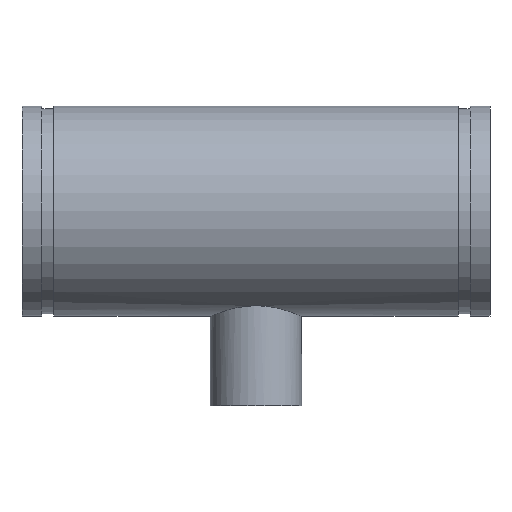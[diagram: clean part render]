
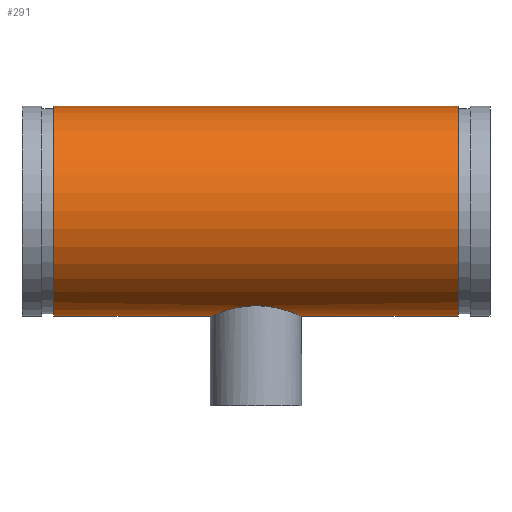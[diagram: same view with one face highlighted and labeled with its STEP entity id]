
A CAD part, top view. The second image highlights one B-rep face of the part: STEP entity #291.
In plain terms, the highlighted cylindrical face has radius 84.138 mm (diameter 168.275 mm), a full revolution.
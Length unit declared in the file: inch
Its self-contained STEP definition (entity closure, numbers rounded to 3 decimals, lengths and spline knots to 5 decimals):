
#45=B_SPLINE_CURVE_WITH_KNOTS('',3,(#511,#512,#513,#514,#515,#516,#517,
#518,#519,#520,#521,#522,#523,#524,#525,#526,#527,#528,#529,#530,#531,#532,
#533,#534,#535,#536,#537,#538,#539,#540,#541,#542,#543,#544,#545,#546,#547,
#548,#549,#550,#551,#552,#553,#554,#555,#556,#557,#558,#559,#560),
 .UNSPECIFIED.,.F.,.F.,(4,2,2,2,2,2,2,2,2,2,2,2,2,2,2,2,2,2,2,2,2,2,2,2,
4),(0.,0.69841,1.39681,2.09522,2.79363,
3.49103,4.18843,4.88582,5.58322,6.28062,
6.97802,7.67542,8.37282,9.07122,9.76963,
10.46804,11.16645,11.86485,12.56326,13.26167,
13.96007,14.65747,15.35487,16.05227,16.74967),
 .UNSPECIFIED.);
#46=B_SPLINE_CURVE_WITH_KNOTS('',3,(#561,#562,#563,#564,#565,#566,#567,
#568,#569,#570,#571,#572,#573,#574,#575,#576,#577,#578),.UNSPECIFIED.,.F.,
 .F.,(4,2,2,2,2,2,2,2,4),(16.74967,17.44707,18.14447,
18.84186,19.53926,20.23767,20.93608,21.63448,
22.33289),.UNSPECIFIED.);
#51=LINE('',#508,#59);
#59=VECTOR('',#410,3.3125);
#67=CYLINDRICAL_SURFACE('',#338,3.3125);
#77=FACE_BOUND('',#108,.T.);
#88=FACE_OUTER_BOUND('',#107,.T.);
#107=EDGE_LOOP('',(#221,#222,#223,#224));
#108=EDGE_LOOP('',(#225,#226));
#121=CIRCLE('',#321,3.3125);
#132=CIRCLE('',#337,3.3125);
#141=VERTEX_POINT('',#476);
#152=VERTEX_POINT('',#505);
#153=VERTEX_POINT('',#509);
#154=VERTEX_POINT('',#510);
#165=EDGE_CURVE('',#141,#141,#121,.T.);
#178=EDGE_CURVE('',#152,#152,#132,.T.);
#179=EDGE_CURVE('',#152,#141,#51,.T.);
#180=EDGE_CURVE('',#153,#154,#45,.T.);
#181=EDGE_CURVE('',#154,#153,#46,.T.);
#221=ORIENTED_EDGE('',*,*,#178,.T.);
#222=ORIENTED_EDGE('',*,*,#179,.T.);
#223=ORIENTED_EDGE('',*,*,#165,.T.);
#224=ORIENTED_EDGE('',*,*,#179,.F.);
#225=ORIENTED_EDGE('',*,*,#180,.F.);
#226=ORIENTED_EDGE('',*,*,#181,.F.);
#291=ADVANCED_FACE('',(#88,#77),#67,.T.);
#321=AXIS2_PLACEMENT_3D('',#477,#372,#373);
#337=AXIS2_PLACEMENT_3D('',#506,#406,#407);
#338=AXIS2_PLACEMENT_3D('',#507,#408,#409);
#372=DIRECTION('center_axis',(-1.,0.,0.));
#373=DIRECTION('ref_axis',(0.,-1.,0.));
#406=DIRECTION('center_axis',(1.,0.,0.));
#407=DIRECTION('ref_axis',(0.,-1.,0.));
#408=DIRECTION('center_axis',(-1.,0.,0.));
#409=DIRECTION('ref_axis',(0.,-1.,0.));
#410=DIRECTION('',(1.,0.,0.));
#476=CARTESIAN_POINT('',(6.38,3.3125,0.));
#477=CARTESIAN_POINT('Origin',(6.38,0.,0.));
#505=CARTESIAN_POINT('',(-6.38,3.3125,0.));
#506=CARTESIAN_POINT('Origin',(-6.38,0.,0.));
#507=CARTESIAN_POINT('Origin',(7.38,0.,0.));
#508=CARTESIAN_POINT('',(7.38,3.3125,0.));
#509=CARTESIAN_POINT('',(0.,-2.98433,-1.4375));
#510=CARTESIAN_POINT('',(-1.4375,-3.3125,0.));
#511=CARTESIAN_POINT('Ctrl Pts',(0.,-2.98433,
-1.4375));
#512=CARTESIAN_POINT('Ctrl Pts',(0.09165,-2.98433,-1.4375));
#513=CARTESIAN_POINT('Ctrl Pts',(0.18597,-2.98868,-1.42859));
#514=CARTESIAN_POINT('Ctrl Pts',(0.37272,-3.00608,-1.3916));
#515=CARTESIAN_POINT('Ctrl Pts',(0.46516,-3.01912,-1.36352));
#516=CARTESIAN_POINT('Ctrl Pts',(0.64179,-3.05133,-1.28983));
#517=CARTESIAN_POINT('Ctrl Pts',(0.72614,-3.07049,-1.24416));
#518=CARTESIAN_POINT('Ctrl Pts',(0.88189,-3.111,-1.13908));
#519=CARTESIAN_POINT('Ctrl Pts',(0.95328,-3.13232,-1.07965));
#520=CARTESIAN_POINT('Ctrl Pts',(1.07956,-3.17303,-0.95337));
#521=CARTESIAN_POINT('Ctrl Pts',(1.13898,-3.19392,-0.88202));
#522=CARTESIAN_POINT('Ctrl Pts',(1.2441,-3.2329,-0.72626));
#523=CARTESIAN_POINT('Ctrl Pts',(1.28981,-3.25096,-0.64184));
#524=CARTESIAN_POINT('Ctrl Pts',(1.36356,-3.28091,-0.46507));
#525=CARTESIAN_POINT('Ctrl Pts',(1.39164,-3.29282,-0.37257));
#526=CARTESIAN_POINT('Ctrl Pts',(1.42862,-3.30861,-0.18579));
#527=CARTESIAN_POINT('Ctrl Pts',(1.4375,-3.3125,-0.09152));
#528=CARTESIAN_POINT('Ctrl Pts',(1.4375,-3.3125,0.09152));
#529=CARTESIAN_POINT('Ctrl Pts',(1.42862,-3.30861,0.18579));
#530=CARTESIAN_POINT('Ctrl Pts',(1.39164,-3.29282,0.37257));
#531=CARTESIAN_POINT('Ctrl Pts',(1.36356,-3.28091,0.46507));
#532=CARTESIAN_POINT('Ctrl Pts',(1.28981,-3.25096,0.64184));
#533=CARTESIAN_POINT('Ctrl Pts',(1.2441,-3.2329,0.72626));
#534=CARTESIAN_POINT('Ctrl Pts',(1.13898,-3.19392,0.88202));
#535=CARTESIAN_POINT('Ctrl Pts',(1.07956,-3.17303,0.95337));
#536=CARTESIAN_POINT('Ctrl Pts',(0.95328,-3.13232,1.07965));
#537=CARTESIAN_POINT('Ctrl Pts',(0.88189,-3.111,1.13908));
#538=CARTESIAN_POINT('Ctrl Pts',(0.72614,-3.07049,1.24416));
#539=CARTESIAN_POINT('Ctrl Pts',(0.64179,-3.05133,1.28983));
#540=CARTESIAN_POINT('Ctrl Pts',(0.46516,-3.01912,1.36352));
#541=CARTESIAN_POINT('Ctrl Pts',(0.37272,-3.00608,1.3916));
#542=CARTESIAN_POINT('Ctrl Pts',(0.18597,-2.98868,1.42859));
#543=CARTESIAN_POINT('Ctrl Pts',(0.09165,-2.98433,1.4375));
#544=CARTESIAN_POINT('Ctrl Pts',(-0.09165,-2.98433,
1.4375));
#545=CARTESIAN_POINT('Ctrl Pts',(-0.18597,-2.98868,1.42859));
#546=CARTESIAN_POINT('Ctrl Pts',(-0.37272,-3.00608,1.3916));
#547=CARTESIAN_POINT('Ctrl Pts',(-0.46516,-3.01912,1.36352));
#548=CARTESIAN_POINT('Ctrl Pts',(-0.64179,-3.05133,1.28983));
#549=CARTESIAN_POINT('Ctrl Pts',(-0.72614,-3.07049,1.24416));
#550=CARTESIAN_POINT('Ctrl Pts',(-0.88189,-3.111,1.13908));
#551=CARTESIAN_POINT('Ctrl Pts',(-0.95328,-3.13232,1.07965));
#552=CARTESIAN_POINT('Ctrl Pts',(-1.07956,-3.17303,0.95337));
#553=CARTESIAN_POINT('Ctrl Pts',(-1.13898,-3.19392,0.88202));
#554=CARTESIAN_POINT('Ctrl Pts',(-1.2441,-3.2329,0.72626));
#555=CARTESIAN_POINT('Ctrl Pts',(-1.28981,-3.25096,0.64184));
#556=CARTESIAN_POINT('Ctrl Pts',(-1.36356,-3.28091,0.46507));
#557=CARTESIAN_POINT('Ctrl Pts',(-1.39164,-3.29282,0.37257));
#558=CARTESIAN_POINT('Ctrl Pts',(-1.42862,-3.30861,0.18579));
#559=CARTESIAN_POINT('Ctrl Pts',(-1.4375,-3.3125,0.09152));
#560=CARTESIAN_POINT('Ctrl Pts',(-1.4375,-3.3125,0.));
#561=CARTESIAN_POINT('Ctrl Pts',(-1.4375,-3.3125,0.));
#562=CARTESIAN_POINT('Ctrl Pts',(-1.4375,-3.3125,-0.09152));
#563=CARTESIAN_POINT('Ctrl Pts',(-1.42862,-3.30861,-0.18579));
#564=CARTESIAN_POINT('Ctrl Pts',(-1.39164,-3.29282,-0.37257));
#565=CARTESIAN_POINT('Ctrl Pts',(-1.36356,-3.28091,-0.46507));
#566=CARTESIAN_POINT('Ctrl Pts',(-1.28981,-3.25096,-0.64184));
#567=CARTESIAN_POINT('Ctrl Pts',(-1.2441,-3.2329,-0.72626));
#568=CARTESIAN_POINT('Ctrl Pts',(-1.13898,-3.19392,-0.88202));
#569=CARTESIAN_POINT('Ctrl Pts',(-1.07956,-3.17303,-0.95337));
#570=CARTESIAN_POINT('Ctrl Pts',(-0.95328,-3.13232,-1.07965));
#571=CARTESIAN_POINT('Ctrl Pts',(-0.88189,-3.111,-1.13908));
#572=CARTESIAN_POINT('Ctrl Pts',(-0.72614,-3.07049,-1.24416));
#573=CARTESIAN_POINT('Ctrl Pts',(-0.64179,-3.05133,-1.28983));
#574=CARTESIAN_POINT('Ctrl Pts',(-0.46516,-3.01912,-1.36352));
#575=CARTESIAN_POINT('Ctrl Pts',(-0.37272,-3.00608,-1.3916));
#576=CARTESIAN_POINT('Ctrl Pts',(-0.18597,-2.98868,-1.42859));
#577=CARTESIAN_POINT('Ctrl Pts',(-0.09165,-2.98433,-1.4375));
#578=CARTESIAN_POINT('Ctrl Pts',(0.,-2.98433,
-1.4375));
